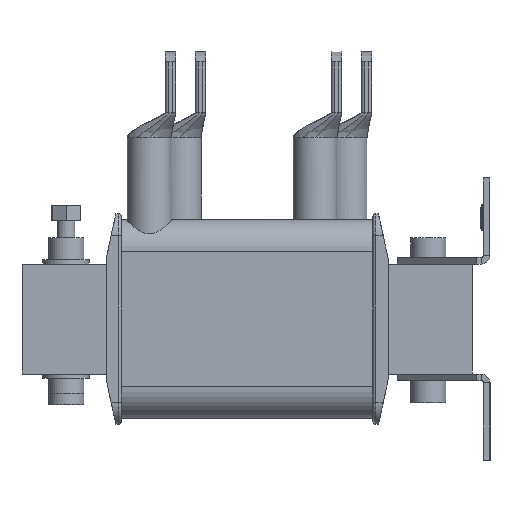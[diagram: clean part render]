
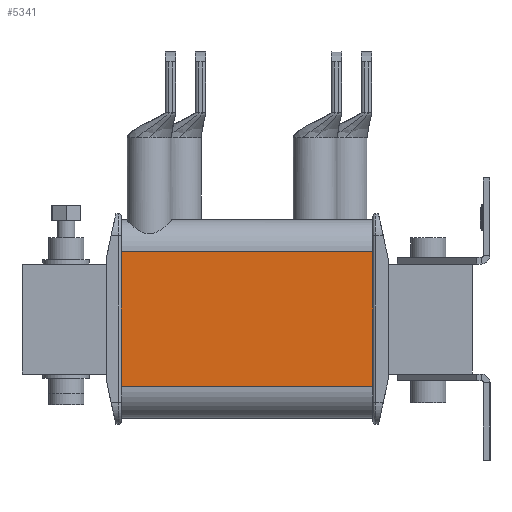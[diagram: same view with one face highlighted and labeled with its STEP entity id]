
A CAD part, left-side view. The second image highlights one B-rep face of the part: STEP entity #5341.
In plain terms, the highlighted planar face has unit normal (-1, 0, 0).
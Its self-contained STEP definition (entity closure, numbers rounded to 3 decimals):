
#337 = DIRECTION ( 'NONE',  ( 0., 0., 1. ) ) ;
#602 = EDGE_CURVE ( 'NONE', #6703, #3351, #13041, .T. ) ;
#1515 = CARTESIAN_POINT ( 'NONE',  ( -120., 167., -30.5 ) ) ;
#1589 = CARTESIAN_POINT ( 'NONE',  ( -120., 53., -30.5 ) ) ;
#1665 = DIRECTION ( 'NONE',  ( 0., -1., 0. ) ) ;
#1902 = ORIENTED_EDGE ( 'NONE', *, *, #11490, .F. ) ;
#1953 = LINE ( 'NONE', #14349, #11397 ) ;
#2817 = DIRECTION ( 'NONE',  ( 0., 0., 1. ) ) ;
#2989 = DIRECTION ( 'NONE',  ( 0., -1., 0. ) ) ;
#3351 = VERTEX_POINT ( 'NONE', #8800 ) ;
#3527 = VERTEX_POINT ( 'NONE', #7831 ) ;
#4249 = VECTOR ( 'NONE', #337, 1000. ) ;
#4914 = DIRECTION ( 'NONE',  ( 1., 0., 0. ) ) ;
#5129 = CARTESIAN_POINT ( 'NONE',  ( -120., 167., -30.5 ) ) ;
#5341 = ADVANCED_FACE ( 'NONE', ( #6568 ), #11125, .F. ) ;
#5393 = ORIENTED_EDGE ( 'NONE', *, *, #602, .F. ) ;
#5482 = EDGE_LOOP ( 'NONE', ( #10995, #1902, #5393, #13810 ) ) ;
#5489 = AXIS2_PLACEMENT_3D ( 'NONE', #11785, #4914, #14331 ) ;
#6568 = FACE_OUTER_BOUND ( 'NONE', #5482, .T. ) ;
#6703 = VERTEX_POINT ( 'NONE', #7809 ) ;
#7809 = CARTESIAN_POINT ( 'NONE',  ( -120., 167., -30.5 ) ) ;
#7831 = CARTESIAN_POINT ( 'NONE',  ( -120., 53., 30.5 ) ) ;
#8800 = CARTESIAN_POINT ( 'NONE',  ( -120., 167., 30.5 ) ) ;
#10926 = VECTOR ( 'NONE', #1665, 1000. ) ;
#10995 = ORIENTED_EDGE ( 'NONE', *, *, #12388, .T. ) ;
#11125 = PLANE ( 'NONE',  #5489 ) ;
#11397 = VECTOR ( 'NONE', #2989, 1000. ) ;
#11406 = VERTEX_POINT ( 'NONE', #1589 ) ;
#11434 = EDGE_CURVE ( 'NONE', #6703, #11406, #12918, .T. ) ;
#11490 = EDGE_CURVE ( 'NONE', #3351, #3527, #1953, .T. ) ;
#11785 = CARTESIAN_POINT ( 'NONE',  ( -120., 167., -30.5 ) ) ;
#12371 = VECTOR ( 'NONE', #2817, 1000. ) ;
#12388 = EDGE_CURVE ( 'NONE', #11406, #3527, #13146, .T. ) ;
#12918 = LINE ( 'NONE', #1515, #10926 ) ;
#13041 = LINE ( 'NONE', #5129, #12371 ) ;
#13146 = LINE ( 'NONE', #14282, #4249 ) ;
#13810 = ORIENTED_EDGE ( 'NONE', *, *, #11434, .T. ) ;
#14282 = CARTESIAN_POINT ( 'NONE',  ( -120., 53., -30.5 ) ) ;
#14331 = DIRECTION ( 'NONE',  ( 0., 0., -1. ) ) ;
#14349 = CARTESIAN_POINT ( 'NONE',  ( -120., 167., 30.5 ) ) ;
